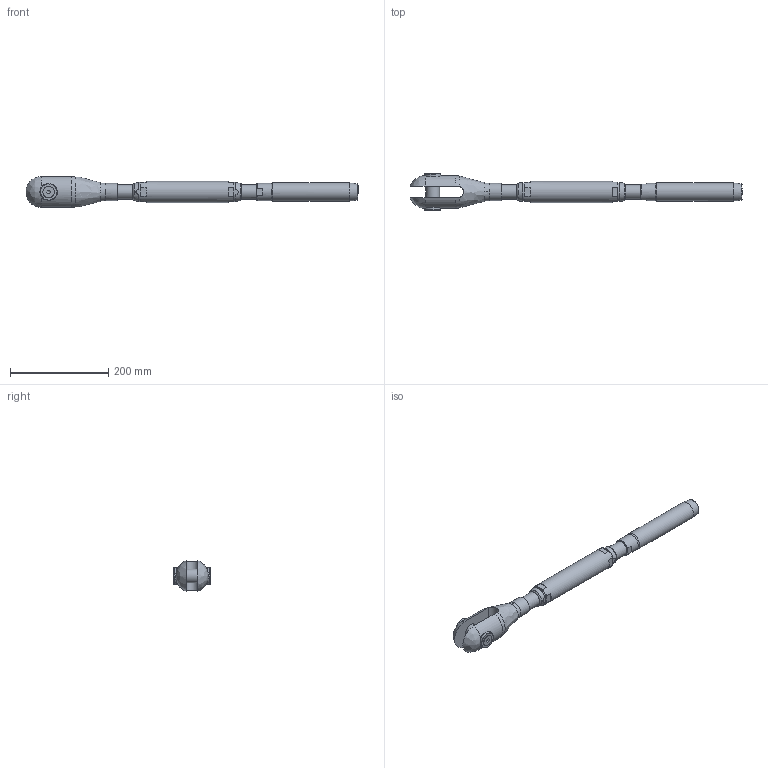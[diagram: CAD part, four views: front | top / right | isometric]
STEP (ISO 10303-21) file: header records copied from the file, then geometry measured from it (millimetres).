
FILE_DESCRIPTION(/* description */ (''),/* implementation_level */ '2;1');
FILE_NAME(/* name */ 'TBC 20_42CrMo4',/* time_stamp */ '2023-05-23T18:16:40+02:00',/* author */ (''),/* organization */ (''),/* preprocessor_version */ 'ST-DEVELOPER v16.5',/* originating_system */ 'Rhino 7.22',/* authorisation */ '');
FILE_SCHEMA (('CONFIG_CONTROL_DESIGN'));
Length unit declared in the file: millimetre
Products named in the file (1): Document
Bounding box: 677.19 x 75.41 x 62.55 mm (x, y, z)
Volume: 842307.3 mm3; surface area: 160979.2 mm2
Topology: 10 solids, 10 shells, 141 faces, 384 edges, 265 vertices
Faces by surface type: plane 65, bspline 41, cylinder 35
Full cylindrical faces by diameter (mm): 10.106 x2, 12 x2, 12.5 x2, 23.12 x2, 26.211 x4, 28 x1, 30 x4, 34 x2, 35 x3, 36.8 x1, 43 x1
Entity records: 5934 total; most frequent: CARTESIAN_POINT 3498, ORIENTED_EDGE 760, EDGE_CURVE 380, VERTEX_POINT 265, EDGE_LOOP 161, B_SPLINE_CURVE_WITH_KNOTS 158, ADVANCED_FACE 141, FACE_OUTER_BOUND 141
